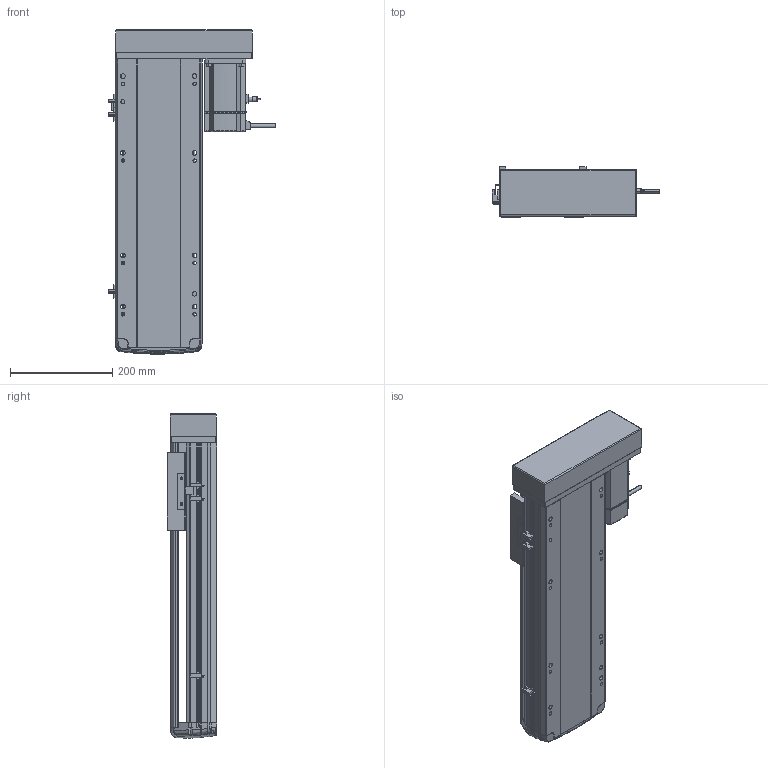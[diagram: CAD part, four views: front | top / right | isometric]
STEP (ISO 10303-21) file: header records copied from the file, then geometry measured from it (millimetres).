
FILE_DESCRIPTION (( 'STEP AP214' ), '1' );
FILE_NAME ('RTH17-XX-350-L-M75-C4.STEP', '2025-10-24T10:31:45', ( '' ), ( '' ), 'SwSTEP 2.0', 'SolidWorks 2018', '' );
FILE_SCHEMA (( 'AUTOMOTIVE_DESIGN' ));
Length unit declared in the file: millimetre
Products named in the file (10): RTH17-XX-350-L-M75-C4; N_RTH17-M-007上盖^RTH17-XX-XX-L-M75-C4（方程式）; N_OMRON EE-SX672 換覜ん^RTH17-XX-XX-L-M75-C4ㄗ源最宒ㄘ; N_RTH17-E-004丝杆螺母连接座^RTH17-XX-XX-L-M75-C4（方程式）; N_RTH17-M-011底座^RTH17-XX-XX-L-M75-C4（方程式）; N_RTH17-GY-001P^RTH17-XX-XX-L-M75-C4（方程式）; N_RTH-L-012 感应片(外置)^RTH17-XX-XX-L-M75-C4（方程式）; N_RTH17-L-018盖子^RTH17-XX-XX-L-M75-C4（方程式）; N_RTH17-L-008-P75电机安装板左转折^RTH17-XX-XX-L-M75-C4（方程式）; N_M75^RTH17-XX-XX-L-M75-C4（方程式）
Assembly tree (11 placements, depth 2):
  RTH17-XX-350-L-M75-C4
    N_RTH17-M-011底座^RTH17-XX-XX-L-M75-C4（方程式）
    N_RTH17-M-007上盖^RTH17-XX-XX-L-M75-C4（方程式）
    N_M75^RTH17-XX-XX-L-M75-C4（方程式）
    N_OMRON EE-SX672 換覜ん^RTH17-XX-XX-L-M75-C4ㄗ源最宒ㄘ  x3
    N_RTH-L-012 感应片(外置)^RTH17-XX-XX-L-M75-C4（方程式）
    N_RTH17-L-008-P75电机安装板左转折^RTH17-XX-XX-L-M75-C4（方程式）
    N_RTH17-L-018盖子^RTH17-XX-XX-L-M75-C4（方程式）
    N_RTH17-E-004丝杆螺母连接座^RTH17-XX-XX-L-M75-C4（方程式）
    N_RTH17-GY-001P^RTH17-XX-XX-L-M75-C4（方程式）
Bounding box: 326.7 x 97 x 633.07 mm (x, y, z)
Volume: 6752936.4 mm3; surface area: 850162.8 mm2
Topology: 13 solids, 15 shells, 1725 faces, 4727 edges, 3058 vertices
Faces by surface type: plane 829, cylinder 482, bspline 377, cone 28, torus 9
Entity records: 49821 total; most frequent: CARTESIAN_POINT 19987, ORIENTED_EDGE 6478, DIRECTION 5383, EDGE_CURVE 3243, VERTEX_POINT 2094, AXIS2_PLACEMENT_3D 1801, LINE 1781, VECTOR 1781
